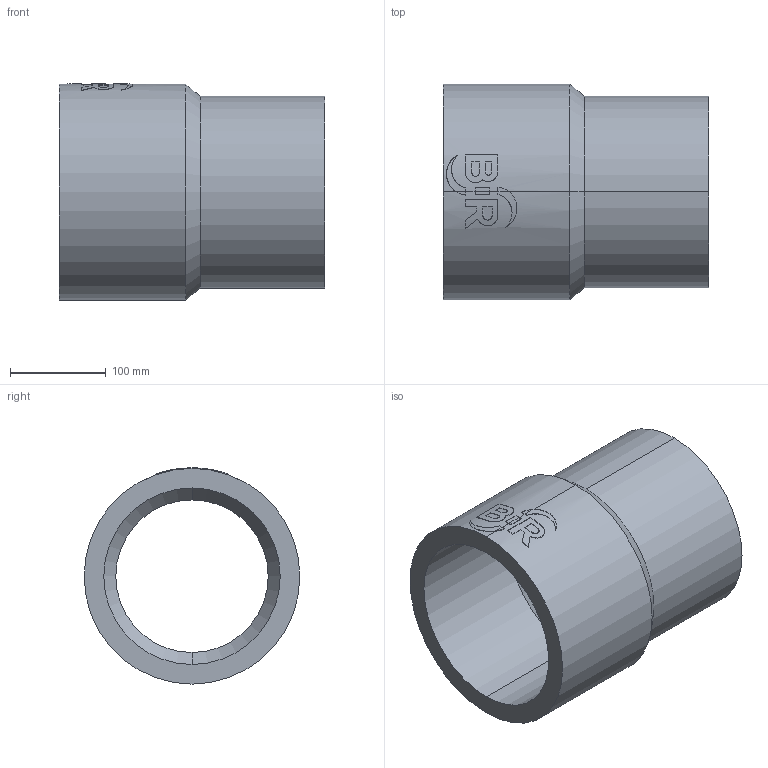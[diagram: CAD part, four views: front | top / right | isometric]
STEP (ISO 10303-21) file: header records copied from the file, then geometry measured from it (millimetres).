
FILE_DESCRIPTION (( 'STEP AP214' ), '1' );
FILE_NAME ('2323201935.STEP', '2018-07-20T09:54:50', ( '' ), ( '' ), 'SwSTEP 2.0', 'SolidWorks 2017', '' );
FILE_SCHEMA (( 'AUTOMOTIVE_DESIGN' ));
Length unit declared in the file: millimetre
Products named in the file (1): 2323201935
Bounding box: 277 x 225 x 225.46 mm (x, y, z)
Volume: 3477724.1 mm3; surface area: 364235.5 mm2
Topology: 1 solids, 1 shells, 63 faces, 160 edges, 104 vertices
Faces by surface type: cylinder 31, plane 28, cone 4
Entity records: 3325 total; most frequent: CARTESIAN_POINT 1116, ORIENTED_EDGE 320, DIRECTION 296, EDGE_CURVE 160, AXIS2_PLACEMENT_3D 112, VERTEX_POINT 104, VECTOR 72, LINE 72
